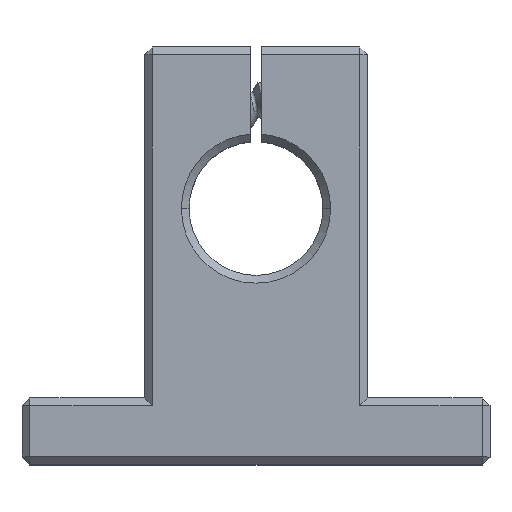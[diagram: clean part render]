
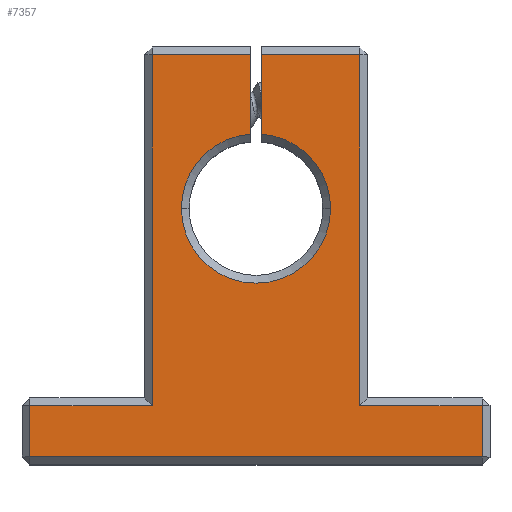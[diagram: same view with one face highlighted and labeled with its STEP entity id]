
A CAD part, top view. The second image highlights one B-rep face of the part: STEP entity #7357.
In plain terms, the highlighted planar face has unit normal (0, 0, 1).
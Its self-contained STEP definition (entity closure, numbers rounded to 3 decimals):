
#33 = CARTESIAN_POINT ( 'NONE',  ( -0.5, 29.681, 14. ) ) ;
#94 = DIRECTION ( 'NONE',  ( -1., 0., 0. ) ) ;
#144 = ORIENTED_EDGE ( 'NONE', *, *, #859, .T. ) ;
#189 = AXIS2_PLACEMENT_3D ( 'NONE', #7501, #3998, #504 ) ;
#217 = DIRECTION ( 'NONE',  ( 0., 1., 0. ) ) ;
#224 = VERTEX_POINT ( 'NONE', #1497 ) ;
#314 = CARTESIAN_POINT ( 'NONE',  ( 21., 0.7, 14. ) ) ;
#471 = ORIENTED_EDGE ( 'NONE', *, *, #5166, .T. ) ;
#478 = EDGE_CURVE ( 'NONE', #4329, #2875, #1304, .T. ) ;
#504 = DIRECTION ( 'NONE',  ( 1., 0., 0. ) ) ;
#507 = DIRECTION ( 'NONE',  ( 0., 1., 0. ) ) ;
#693 = DIRECTION ( 'NONE',  ( -1., 0., 0. ) ) ;
#731 = LINE ( 'NONE', #3592, #895 ) ;
#736 = VERTEX_POINT ( 'NONE', #7026 ) ;
#859 = EDGE_CURVE ( 'NONE', #224, #939, #3111, .T. ) ;
#895 = VECTOR ( 'NONE', #94, 1000. ) ;
#939 = VERTEX_POINT ( 'NONE', #2892 ) ;
#1038 = ORIENTED_EDGE ( 'NONE', *, *, #6162, .T. ) ;
#1054 = EDGE_CURVE ( 'NONE', #736, #2514, #6858, .T. ) ;
#1141 = DIRECTION ( 'NONE',  ( -1., 0., 0. ) ) ;
#1304 = CIRCLE ( 'NONE', #3227, 6.7 ) ;
#1350 = DIRECTION ( 'NONE',  ( 0., -1., 0. ) ) ;
#1361 = CARTESIAN_POINT ( 'NONE',  ( -0.5, 36.8, 14. ) ) ;
#1365 = EDGE_CURVE ( 'NONE', #2330, #2579, #1470, .T. ) ;
#1402 = CARTESIAN_POINT ( 'NONE',  ( 0.5, 36.8, 14. ) ) ;
#1470 = LINE ( 'NONE', #4305, #6488 ) ;
#1478 = ORIENTED_EDGE ( 'NONE', *, *, #1365, .T. ) ;
#1497 = CARTESIAN_POINT ( 'NONE',  ( -9.3, 36.8, 14. ) ) ;
#1645 = VERTEX_POINT ( 'NONE', #33 ) ;
#1824 = FACE_OUTER_BOUND ( 'NONE', #5795, .T. ) ;
#1914 = LINE ( 'NONE', #4854, #4842 ) ;
#1936 = CARTESIAN_POINT ( 'NONE',  ( -6.7, 23., 14. ) ) ;
#1937 = VECTOR ( 'NONE', #6553, 1000. ) ;
#1975 = CARTESIAN_POINT ( 'NONE',  ( 0.5, 29.681, 14. ) ) ;
#2147 = LINE ( 'NONE', #4844, #6814 ) ;
#2152 = DIRECTION ( 'NONE',  ( 0., 0., -1. ) ) ;
#2174 = CARTESIAN_POINT ( 'NONE',  ( 20.3, 6., 14. ) ) ;
#2184 = EDGE_CURVE ( 'NONE', #7170, #224, #7207, .T. ) ;
#2215 = PLANE ( 'NONE',  #3367 ) ;
#2330 = VERTEX_POINT ( 'NONE', #3643 ) ;
#2339 = LINE ( 'NONE', #2523, #5454 ) ;
#2348 = VECTOR ( 'NONE', #693, 1000. ) ;
#2406 = VERTEX_POINT ( 'NONE', #1936 ) ;
#2442 = DIRECTION ( 'NONE',  ( 1., 0., 0. ) ) ;
#2514 = VERTEX_POINT ( 'NONE', #7319 ) ;
#2523 = CARTESIAN_POINT ( 'NONE',  ( -20.3, 0., 14. ) ) ;
#2559 = VECTOR ( 'NONE', #5567, 1000. ) ;
#2579 = VERTEX_POINT ( 'NONE', #6219 ) ;
#2616 = CARTESIAN_POINT ( 'NONE',  ( 0., 23., 14. ) ) ;
#2712 = LINE ( 'NONE', #2174, #5646 ) ;
#2801 = DIRECTION ( 'NONE',  ( 1., 0., 0. ) ) ;
#2847 = ORIENTED_EDGE ( 'NONE', *, *, #4931, .T. ) ;
#2875 = VERTEX_POINT ( 'NONE', #4639 ) ;
#2876 = CIRCLE ( 'NONE', #189, 6.7 ) ;
#2892 = CARTESIAN_POINT ( 'NONE',  ( -9.3, 5.3, 14. ) ) ;
#3034 = CARTESIAN_POINT ( 'NONE',  ( 0., 23., 14. ) ) ;
#3043 = ORIENTED_EDGE ( 'NONE', *, *, #3152, .T. ) ;
#3111 = LINE ( 'NONE', #5174, #1937 ) ;
#3145 = ORIENTED_EDGE ( 'NONE', *, *, #2184, .T. ) ;
#3152 = EDGE_CURVE ( 'NONE', #7341, #736, #2339, .T. ) ;
#3227 = AXIS2_PLACEMENT_3D ( 'NONE', #3034, #6527, #2442 ) ;
#3244 = LINE ( 'NONE', #4002, #4821 ) ;
#3367 = AXIS2_PLACEMENT_3D ( 'NONE', #2616, #6291, #2801 ) ;
#3457 = CARTESIAN_POINT ( 'NONE',  ( 0.5, 36.8, 14. ) ) ;
#3592 = CARTESIAN_POINT ( 'NONE',  ( -21., 5.3, 14. ) ) ;
#3643 = CARTESIAN_POINT ( 'NONE',  ( 9.3, 5.3, 14. ) ) ;
#3767 = VERTEX_POINT ( 'NONE', #4561 ) ;
#3785 = ORIENTED_EDGE ( 'NONE', *, *, #4907, .T. ) ;
#3799 = EDGE_CURVE ( 'NONE', #1645, #7170, #3244, .T. ) ;
#3817 = LINE ( 'NONE', #3457, #5180 ) ;
#3998 = DIRECTION ( 'NONE',  ( 0., 0., -1. ) ) ;
#4002 = CARTESIAN_POINT ( 'NONE',  ( -0.5, 37.5, 14. ) ) ;
#4254 = EDGE_CURVE ( 'NONE', #3767, #2330, #2147, .T. ) ;
#4305 = CARTESIAN_POINT ( 'NONE',  ( 9.3, 37.5, 14. ) ) ;
#4329 = VERTEX_POINT ( 'NONE', #1975 ) ;
#4490 = CARTESIAN_POINT ( 'NONE',  ( -20.3, 5.3, 14. ) ) ;
#4561 = CARTESIAN_POINT ( 'NONE',  ( 20.3, 5.3, 14. ) ) ;
#4639 = CARTESIAN_POINT ( 'NONE',  ( 6.7, 23., 14. ) ) ;
#4778 = CARTESIAN_POINT ( 'NONE',  ( -10., 36.8, 14. ) ) ;
#4821 = VECTOR ( 'NONE', #507, 1000. ) ;
#4842 = VECTOR ( 'NONE', #1350, 1000. ) ;
#4844 = CARTESIAN_POINT ( 'NONE',  ( 10., 5.3, 14. ) ) ;
#4854 = CARTESIAN_POINT ( 'NONE',  ( 0.5, 28.979, 14. ) ) ;
#4867 = DIRECTION ( 'NONE',  ( 0., -1., 0. ) ) ;
#4907 = EDGE_CURVE ( 'NONE', #2406, #1645, #6161, .T. ) ;
#4931 = EDGE_CURVE ( 'NONE', #2875, #2406, #2876, .T. ) ;
#5064 = ORIENTED_EDGE ( 'NONE', *, *, #1054, .T. ) ;
#5166 = EDGE_CURVE ( 'NONE', #939, #7341, #731, .T. ) ;
#5174 = CARTESIAN_POINT ( 'NONE',  ( -9.3, 6., 14. ) ) ;
#5180 = VECTOR ( 'NONE', #1141, 1000. ) ;
#5343 = EDGE_CURVE ( 'NONE', #5607, #4329, #1914, .T. ) ;
#5454 = VECTOR ( 'NONE', #4867, 1000. ) ;
#5567 = DIRECTION ( 'NONE',  ( 1., 0., 0. ) ) ;
#5607 = VERTEX_POINT ( 'NONE', #1402 ) ;
#5646 = VECTOR ( 'NONE', #6256, 1000. ) ;
#5661 = CARTESIAN_POINT ( 'NONE',  ( 0., 23., 14. ) ) ;
#5795 = EDGE_LOOP ( 'NONE', ( #7093, #6754, #2847, #3785, #6572, #3145, #144, #471, #3043, #5064, #7162, #6290, #1478, #1038 ) ) ;
#6161 = CIRCLE ( 'NONE', #6985, 6.7 ) ;
#6162 = EDGE_CURVE ( 'NONE', #2579, #5607, #3817, .T. ) ;
#6219 = CARTESIAN_POINT ( 'NONE',  ( 9.3, 36.8, 14. ) ) ;
#6238 = DIRECTION ( 'NONE',  ( 1., 0., 0. ) ) ;
#6256 = DIRECTION ( 'NONE',  ( 0., 1., 0. ) ) ;
#6290 = ORIENTED_EDGE ( 'NONE', *, *, #4254, .T. ) ;
#6291 = DIRECTION ( 'NONE',  ( 0., 0., 1. ) ) ;
#6488 = VECTOR ( 'NONE', #217, 1000. ) ;
#6527 = DIRECTION ( 'NONE',  ( 0., 0., -1. ) ) ;
#6536 = EDGE_CURVE ( 'NONE', #2514, #3767, #2712, .T. ) ;
#6553 = DIRECTION ( 'NONE',  ( 0., -1., 0. ) ) ;
#6572 = ORIENTED_EDGE ( 'NONE', *, *, #3799, .T. ) ;
#6754 = ORIENTED_EDGE ( 'NONE', *, *, #478, .T. ) ;
#6814 = VECTOR ( 'NONE', #7171, 1000. ) ;
#6858 = LINE ( 'NONE', #314, #2559 ) ;
#6985 = AXIS2_PLACEMENT_3D ( 'NONE', #5661, #2152, #6238 ) ;
#7026 = CARTESIAN_POINT ( 'NONE',  ( -20.3, 0.7, 14. ) ) ;
#7093 = ORIENTED_EDGE ( 'NONE', *, *, #5343, .T. ) ;
#7162 = ORIENTED_EDGE ( 'NONE', *, *, #6536, .T. ) ;
#7170 = VERTEX_POINT ( 'NONE', #1361 ) ;
#7171 = DIRECTION ( 'NONE',  ( -1., 0., 0. ) ) ;
#7207 = LINE ( 'NONE', #4778, #2348 ) ;
#7319 = CARTESIAN_POINT ( 'NONE',  ( 20.3, 0.7, 14. ) ) ;
#7341 = VERTEX_POINT ( 'NONE', #4490 ) ;
#7357 = ADVANCED_FACE ( 'NONE', ( #1824 ), #2215, .T. ) ;
#7501 = CARTESIAN_POINT ( 'NONE',  ( 0., 23., 14. ) ) ;
